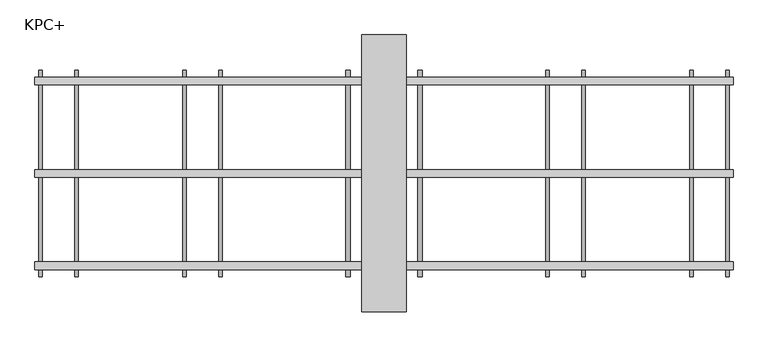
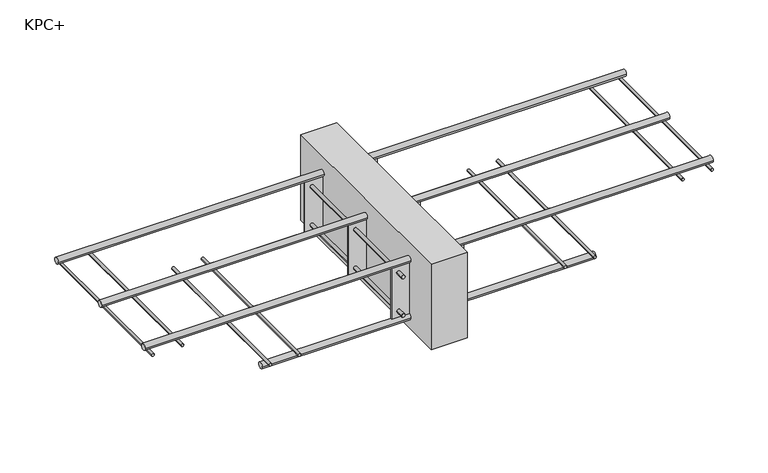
"""IFC4 building model written with IfcOpenShell, lengths in millimetres: proxy geometry, ACINOXplus_Typenreihe_K : KPC+."""

from ifc_helpers import new_model, si_unit, point, frame, frame_2d, origin, place, context, project, spatial, polyline, circle_curve, trimmed, segment, composite_curve, outline, extrude, source, transform, mapped, element, save


def kpc_e40cfa22(model_context):
    return source(origin(), model_context, "Body", "SweptSolid", [
        extrude(outline(polyline([(40.0, 250.0), (40.0, -250.0), (-40.0, -250.0), (-40.0, 250.0), (40.0, 250.0)])), frame((0.0, 0.0, -200.0), z_axis=(0.0, 0.0, 1.0), x_axis=(1.0, 0.0, 0.0)), (0.0, 0.0, 1.0), 200.0),
        extrude(outline(polyline([(80.0, 1.5), (80.0, -1.5), (-80.0, -1.5), (-80.0, 1.5), (80.0, 1.5)])), frame((0.0, 0.0, -165.0), z_axis=(0.0, 0.0, 1.0), x_axis=(1.0, 0.0, 0.0)), (0.0, 0.0, 1.0), 120.0),
        extrude(outline(polyline([(80.0, -165.1666667), (80.0, -168.1666667), (-80.0, -168.1666667), (-80.0, -165.1666667), (80.0, -165.1666667)])), frame((0.0, 0.0, -165.0), z_axis=(0.0, 0.0, 1.0), x_axis=(1.0, 0.0, 0.0)), (0.0, 0.0, 1.0), 120.0),
        extrude(outline(polyline([(80.0, 168.1666667), (80.0, 165.1666667), (-80.0, 165.1666667), (-80.0, 168.1666667), (80.0, 168.1666667)])), frame((0.0, 0.0, -165.0), z_axis=(0.0, 0.0, 1.0), x_axis=(1.0, 0.0, 0.0)), (0.0, 0.0, 1.0), 120.0),
        extrude(outline(composite_curve([segment(trimmed(circle_curve(frame_2d((-150.0, -65.0)), 4.0), [point((-150.0, -69.0))], [point((-150.0, -61.0))], False, "CARTESIAN"), True, "CONTINUOUS"), segment(trimmed(circle_curve(frame_2d((-150.0, -65.0)), 4.0), [point((-150.0, -61.0))], [point((-150.0, -69.0))], False, "CARTESIAN"), True, "CONTINUOUS")], self_intersect=False)), frame((0.0, 168.1666667, 0.0), z_axis=(0.0, 1.0, 0.0), x_axis=(0.0, 0.0, 1.0)), (0.0, 0.0, 1.0), 18.5),
        extrude(outline(composite_curve([segment(trimmed(circle_curve(frame_2d((-150.0, -65.0)), 4.0), [point((-150.0, -61.0))], [point((-150.0, -69.0))], False, "CARTESIAN"), True, "CONTINUOUS"), segment(trimmed(circle_curve(frame_2d((-150.0, -65.0)), 4.0), [point((-150.0, -69.0))], [point((-150.0, -61.0))], False, "CARTESIAN"), True, "CONTINUOUS")], self_intersect=False)), frame((0.0, -186.6666667, 0.0), z_axis=(0.0, 1.0, 0.0), x_axis=(0.0, 0.0, 1.0)), (0.0, 0.0, 1.0), 18.5),
        extrude(outline(composite_curve([segment(trimmed(circle_curve(frame_2d((-150.0, -65.0)), 4.0), [point((-150.0, -69.0))], [point((-150.0, -61.0))], False, "CARTESIAN"), True, "CONTINUOUS"), segment(trimmed(circle_curve(frame_2d((-150.0, -65.0)), 4.0), [point((-150.0, -61.0))], [point((-150.0, -69.0))], False, "CARTESIAN"), True, "CONTINUOUS")], self_intersect=False)), frame((0.0, -165.1666667, 0.0), z_axis=(0.0, 1.0, 0.0), x_axis=(0.0, 0.0, 1.0)), (0.0, 0.0, 1.0), 163.6666667),
        extrude(outline(composite_curve([segment(trimmed(circle_curve(frame_2d((-150.0, -65.0)), 4.0), [point((-150.0, -69.0))], [point((-150.0, -61.0))], False, "CARTESIAN"), True, "CONTINUOUS"), segment(trimmed(circle_curve(frame_2d((-150.0, -65.0)), 4.0), [point((-150.0, -61.0))], [point((-150.0, -69.0))], False, "CARTESIAN"), True, "CONTINUOUS")], self_intersect=False)), frame((0.0, 1.5, 0.0), z_axis=(0.0, 1.0, 0.0), x_axis=(0.0, 0.0, 1.0)), (0.0, 0.0, 1.0), 163.6666667),
        extrude(outline(composite_curve([segment(trimmed(circle_curve(frame_2d((-150.0, 65.0)), 4.0), [point((-150.0, 61.0))], [point((-150.0, 69.0))], False, "CARTESIAN"), True, "CONTINUOUS"), segment(trimmed(circle_curve(frame_2d((-150.0, 65.0)), 4.0), [point((-150.0, 69.0))], [point((-150.0, 61.0))], False, "CARTESIAN"), True, "CONTINUOUS")], self_intersect=False)), frame((0.0, 168.1666667, 0.0), z_axis=(0.0, 1.0, 0.0), x_axis=(0.0, 0.0, 1.0)), (0.0, 0.0, 1.0), 18.5),
        extrude(outline(composite_curve([segment(trimmed(circle_curve(frame_2d((-150.0, 65.0)), 4.0), [point((-150.0, 69.0))], [point((-150.0, 61.0))], False, "CARTESIAN"), True, "CONTINUOUS"), segment(trimmed(circle_curve(frame_2d((-150.0, 65.0)), 4.0), [point((-150.0, 61.0))], [point((-150.0, 69.0))], False, "CARTESIAN"), True, "CONTINUOUS")], self_intersect=False)), frame((0.0, -186.6666667, 0.0), z_axis=(0.0, 1.0, 0.0), x_axis=(0.0, 0.0, 1.0)), (0.0, 0.0, 1.0), 18.5),
        extrude(outline(composite_curve([segment(trimmed(circle_curve(frame_2d((-150.0, 65.0)), 4.0), [point((-150.0, 61.0))], [point((-150.0, 69.0))], False, "CARTESIAN"), True, "CONTINUOUS"), segment(trimmed(circle_curve(frame_2d((-150.0, 65.0)), 4.0), [point((-150.0, 69.0))], [point((-150.0, 61.0))], False, "CARTESIAN"), True, "CONTINUOUS")], self_intersect=False)), frame((0.0, -165.1666667, 0.0), z_axis=(0.0, 1.0, 0.0), x_axis=(0.0, 0.0, 1.0)), (0.0, 0.0, 1.0), 163.6666667),
        extrude(outline(composite_curve([segment(trimmed(circle_curve(frame_2d((-150.0, 65.0)), 4.0), [point((-150.0, 61.0))], [point((-150.0, 69.0))], False, "CARTESIAN"), True, "CONTINUOUS"), segment(trimmed(circle_curve(frame_2d((-150.0, 65.0)), 4.0), [point((-150.0, 69.0))], [point((-150.0, 61.0))], False, "CARTESIAN"), True, "CONTINUOUS")], self_intersect=False)), frame((0.0, 1.5, 0.0), z_axis=(0.0, 1.0, 0.0), x_axis=(0.0, 0.0, 1.0)), (0.0, 0.0, 1.0), 163.6666667),
        extrude(outline(composite_curve([segment(trimmed(circle_curve(frame_2d((-60.0, -65.0)), 4.0), [point((-60.0, -69.0))], [point((-60.0, -61.0))], False, "CARTESIAN"), True, "CONTINUOUS"), segment(trimmed(circle_curve(frame_2d((-60.0, -65.0)), 4.0), [point((-60.0, -61.0))], [point((-60.0, -69.0))], False, "CARTESIAN"), True, "CONTINUOUS")], self_intersect=False)), frame((0.0, 168.1666667, 0.0), z_axis=(0.0, 1.0, 0.0), x_axis=(0.0, 0.0, 1.0)), (0.0, 0.0, 1.0), 18.5),
        extrude(outline(composite_curve([segment(trimmed(circle_curve(frame_2d((-60.0, -65.0)), 4.0), [point((-60.0, -61.0))], [point((-60.0, -69.0))], False, "CARTESIAN"), True, "CONTINUOUS"), segment(trimmed(circle_curve(frame_2d((-60.0, -65.0)), 4.0), [point((-60.0, -69.0))], [point((-60.0, -61.0))], False, "CARTESIAN"), True, "CONTINUOUS")], self_intersect=False)), frame((0.0, -186.6666667, 0.0), z_axis=(0.0, 1.0, 0.0), x_axis=(0.0, 0.0, 1.0)), (0.0, 0.0, 1.0), 18.5),
        extrude(outline(composite_curve([segment(trimmed(circle_curve(frame_2d((-60.0, -65.0)), 4.0), [point((-60.0, -69.0))], [point((-60.0, -61.0))], False, "CARTESIAN"), True, "CONTINUOUS"), segment(trimmed(circle_curve(frame_2d((-60.0, -65.0)), 4.0), [point((-60.0, -61.0))], [point((-60.0, -69.0))], False, "CARTESIAN"), True, "CONTINUOUS")], self_intersect=False)), frame((0.0, -165.1666667, 0.0), z_axis=(0.0, 1.0, 0.0), x_axis=(0.0, 0.0, 1.0)), (0.0, 0.0, 1.0), 163.6666667),
        extrude(outline(composite_curve([segment(trimmed(circle_curve(frame_2d((-60.0, -65.0)), 4.0), [point((-60.0, -69.0))], [point((-60.0, -61.0))], False, "CARTESIAN"), True, "CONTINUOUS"), segment(trimmed(circle_curve(frame_2d((-60.0, -65.0)), 4.0), [point((-60.0, -61.0))], [point((-60.0, -69.0))], False, "CARTESIAN"), True, "CONTINUOUS")], self_intersect=False)), frame((0.0, 1.5, 0.0), z_axis=(0.0, 1.0, 0.0), x_axis=(0.0, 0.0, 1.0)), (0.0, 0.0, 1.0), 163.6666667),
        extrude(outline(composite_curve([segment(trimmed(circle_curve(frame_2d((-60.0, 65.0)), 4.0), [point((-60.0, 61.0))], [point((-60.0, 69.0))], False, "CARTESIAN"), True, "CONTINUOUS"), segment(trimmed(circle_curve(frame_2d((-60.0, 65.0)), 4.0), [point((-60.0, 69.0))], [point((-60.0, 61.0))], False, "CARTESIAN"), True, "CONTINUOUS")], self_intersect=False)), frame((0.0, 168.1666667, 0.0), z_axis=(0.0, 1.0, 0.0), x_axis=(0.0, 0.0, 1.0)), (0.0, 0.0, 1.0), 18.5),
        extrude(outline(composite_curve([segment(trimmed(circle_curve(frame_2d((-60.0, 65.0)), 4.0), [point((-60.0, 69.0))], [point((-60.0, 61.0))], False, "CARTESIAN"), True, "CONTINUOUS"), segment(trimmed(circle_curve(frame_2d((-60.0, 65.0)), 4.0), [point((-60.0, 61.0))], [point((-60.0, 69.0))], False, "CARTESIAN"), True, "CONTINUOUS")], self_intersect=False)), frame((0.0, -186.6666667, 0.0), z_axis=(0.0, 1.0, 0.0), x_axis=(0.0, 0.0, 1.0)), (0.0, 0.0, 1.0), 18.5),
        extrude(outline(composite_curve([segment(trimmed(circle_curve(frame_2d((-60.0, 65.0)), 4.0), [point((-60.0, 61.0))], [point((-60.0, 69.0))], False, "CARTESIAN"), True, "CONTINUOUS"), segment(trimmed(circle_curve(frame_2d((-60.0, 65.0)), 4.0), [point((-60.0, 69.0))], [point((-60.0, 61.0))], False, "CARTESIAN"), True, "CONTINUOUS")], self_intersect=False)), frame((0.0, -165.1666667, 0.0), z_axis=(0.0, 1.0, 0.0), x_axis=(0.0, 0.0, 1.0)), (0.0, 0.0, 1.0), 163.6666667),
        extrude(outline(composite_curve([segment(trimmed(circle_curve(frame_2d((-60.0, 65.0)), 4.0), [point((-60.0, 61.0))], [point((-60.0, 69.0))], False, "CARTESIAN"), True, "CONTINUOUS"), segment(trimmed(circle_curve(frame_2d((-60.0, 65.0)), 4.0), [point((-60.0, 69.0))], [point((-60.0, 61.0))], False, "CARTESIAN"), True, "CONTINUOUS")], self_intersect=False)), frame((0.0, 1.5, 0.0), z_axis=(0.0, 1.0, 0.0), x_axis=(0.0, 0.0, 1.0)), (0.0, 0.0, 1.0), 163.6666667),
        extrude(outline(composite_curve([segment(trimmed(circle_curve(frame_2d((0.0, -172.0)), 7.0), [point((-7.0, -172.0))], [point((7.0, -172.0))], False, "CARTESIAN"), True, "CONTINUOUS"), segment(trimmed(circle_curve(frame_2d((0.0, -172.0)), 7.0), [point((7.0, -172.0))], [point((-7.0, -172.0))], False, "CARTESIAN"), True, "CONTINUOUS")], self_intersect=False)), frame((-370.0, 0.0, 0.0), z_axis=(1.0, 0.0, 0.0), x_axis=(0.0, 1.0, 0.0)), (0.0, 0.0, 1.0), 740.0),
        extrude(outline(composite_curve([segment(trimmed(circle_curve(frame_2d((166.6666667, -172.0)), 7.0), [point((159.6666667, -172.0))], [point((173.6666667, -172.0))], False, "CARTESIAN"), True, "CONTINUOUS"), segment(trimmed(circle_curve(frame_2d((166.6666667, -172.0)), 7.0), [point((173.6666667, -172.0))], [point((159.6666667, -172.0))], False, "CARTESIAN"), True, "CONTINUOUS")], self_intersect=False)), frame((-370.0, 0.0, 0.0), z_axis=(1.0, 0.0, 0.0), x_axis=(0.0, 1.0, 0.0)), (0.0, 0.0, 1.0), 740.0),
        extrude(outline(composite_curve([segment(trimmed(circle_curve(frame_2d((-166.6666667, -172.0)), 7.0), [point((-173.6666667, -172.0))], [point((-159.6666667, -172.0))], False, "CARTESIAN"), True, "CONTINUOUS"), segment(trimmed(circle_curve(frame_2d((-166.6666667, -172.0)), 7.0), [point((-159.6666667, -172.0))], [point((-173.6666667, -172.0))], False, "CARTESIAN"), True, "CONTINUOUS")], self_intersect=False)), frame((-370.0, 0.0, 0.0), z_axis=(1.0, 0.0, 0.0), x_axis=(0.0, 1.0, 0.0)), (0.0, 0.0, 1.0), 740.0),
        extrude(outline(composite_curve([segment(trimmed(circle_curve(frame_2d((0.0, -38.0)), 7.0), [point((-7.0, -38.0))], [point((7.0, -38.0))], False, "CARTESIAN"), True, "CONTINUOUS"), segment(trimmed(circle_curve(frame_2d((0.0, -38.0)), 7.0), [point((7.0, -38.0))], [point((-7.0, -38.0))], False, "CARTESIAN"), True, "CONTINUOUS")], self_intersect=False)), frame((-630.0, 0.0, 0.0), z_axis=(1.0, 0.0, 0.0), x_axis=(0.0, 1.0, 0.0)), (0.0, 0.0, 1.0), 1260.0),
        extrude(outline(composite_curve([segment(trimmed(circle_curve(frame_2d((166.6666667, -38.0)), 7.0), [point((159.6666667, -38.0))], [point((173.6666667, -38.0))], False, "CARTESIAN"), True, "CONTINUOUS"), segment(trimmed(circle_curve(frame_2d((166.6666667, -38.0)), 7.0), [point((173.6666667, -38.0))], [point((159.6666667, -38.0))], False, "CARTESIAN"), True, "CONTINUOUS")], self_intersect=False)), frame((-630.0, 0.0, 0.0), z_axis=(1.0, 0.0, 0.0), x_axis=(0.0, 1.0, 0.0)), (0.0, 0.0, 1.0), 1260.0),
        extrude(outline(composite_curve([segment(trimmed(circle_curve(frame_2d((-166.6666667, -38.0)), 7.0), [point((-173.6666667, -38.0))], [point((-159.6666667, -38.0))], False, "CARTESIAN"), True, "CONTINUOUS"), segment(trimmed(circle_curve(frame_2d((-166.6666667, -38.0)), 7.0), [point((-159.6666667, -38.0))], [point((-173.6666667, -38.0))], False, "CARTESIAN"), True, "CONTINUOUS")], self_intersect=False)), frame((-630.0, 0.0, 0.0), z_axis=(1.0, 0.0, 0.0), x_axis=(0.0, 1.0, 0.0)), (0.0, 0.0, 1.0), 1260.0),
        extrude(outline(composite_curve([segment(trimmed(circle_curve(frame_2d((-162.0, -360.0)), 3.0), [point((-162.0, -357.0))], [point((-162.0, -363.0))], False, "CARTESIAN"), True, "CONTINUOUS"), segment(trimmed(circle_curve(frame_2d((-162.0, -360.0)), 3.0), [point((-162.0, -363.0))], [point((-162.0, -357.0))], False, "CARTESIAN"), True, "CONTINUOUS")], self_intersect=False)), frame((0.0, -186.6666667, 0.0), z_axis=(0.0, 1.0, 0.0), x_axis=(0.0, 0.0, 1.0)), (0.0, 0.0, 1.0), 373.3333333),
        extrude(outline(composite_curve([segment(trimmed(circle_curve(frame_2d((-162.0, -295.0)), 3.0), [point((-162.0, -292.0))], [point((-162.0, -298.0))], False, "CARTESIAN"), True, "CONTINUOUS"), segment(trimmed(circle_curve(frame_2d((-162.0, -295.0)), 3.0), [point((-162.0, -298.0))], [point((-162.0, -292.0))], False, "CARTESIAN"), True, "CONTINUOUS")], self_intersect=False)), frame((0.0, -186.6666667, 0.0), z_axis=(0.0, 1.0, 0.0), x_axis=(0.0, 0.0, 1.0)), (0.0, 0.0, 1.0), 373.3333333),
        extrude(outline(composite_curve([segment(trimmed(circle_curve(frame_2d((-162.0, 295.0)), 3.0), [point((-162.0, 298.0))], [point((-162.0, 292.0))], False, "CARTESIAN"), True, "CONTINUOUS"), segment(trimmed(circle_curve(frame_2d((-162.0, 295.0)), 3.0), [point((-162.0, 292.0))], [point((-162.0, 298.0))], False, "CARTESIAN"), True, "CONTINUOUS")], self_intersect=False)), frame((0.0, -186.6666667, 0.0), z_axis=(0.0, 1.0, 0.0), x_axis=(0.0, 0.0, 1.0)), (0.0, 0.0, 1.0), 373.3333333),
        extrude(outline(composite_curve([segment(trimmed(circle_curve(frame_2d((-162.0, 360.0)), 3.0), [point((-162.0, 363.0))], [point((-162.0, 357.0))], False, "CARTESIAN"), True, "CONTINUOUS"), segment(trimmed(circle_curve(frame_2d((-162.0, 360.0)), 3.0), [point((-162.0, 357.0))], [point((-162.0, 363.0))], False, "CARTESIAN"), True, "CONTINUOUS")], self_intersect=False)), frame((0.0, -186.6666667, 0.0), z_axis=(0.0, 1.0, 0.0), x_axis=(0.0, 0.0, 1.0)), (0.0, 0.0, 1.0), 373.3333333),
        extrude(outline(composite_curve([segment(trimmed(circle_curve(frame_2d((-48.0, 555.0)), 3.0), [point((-48.0, 558.0))], [point((-48.0, 552.0))], False, "CARTESIAN"), True, "CONTINUOUS"), segment(trimmed(circle_curve(frame_2d((-48.0, 555.0)), 3.0), [point((-48.0, 552.0))], [point((-48.0, 558.0))], False, "CARTESIAN"), True, "CONTINUOUS")], self_intersect=False)), frame((0.0, -186.6666667, 0.0), z_axis=(0.0, 1.0, 0.0), x_axis=(0.0, 0.0, 1.0)), (0.0, 0.0, 1.0), 373.3333333),
        extrude(outline(composite_curve([segment(trimmed(circle_curve(frame_2d((-48.0, 620.0)), 3.0), [point((-48.0, 623.0))], [point((-48.0, 617.0))], False, "CARTESIAN"), True, "CONTINUOUS"), segment(trimmed(circle_curve(frame_2d((-48.0, 620.0)), 3.0), [point((-48.0, 617.0))], [point((-48.0, 623.0))], False, "CARTESIAN"), True, "CONTINUOUS")], self_intersect=False)), frame((0.0, -186.6666667, 0.0), z_axis=(0.0, 1.0, 0.0), x_axis=(0.0, 0.0, 1.0)), (0.0, 0.0, 1.0), 373.3333333),
        extrude(outline(composite_curve([segment(trimmed(circle_curve(frame_2d((-48.0, -620.0)), 3.0), [point((-48.0, -617.0))], [point((-48.0, -623.0))], False, "CARTESIAN"), True, "CONTINUOUS"), segment(trimmed(circle_curve(frame_2d((-48.0, -620.0)), 3.0), [point((-48.0, -623.0))], [point((-48.0, -617.0))], False, "CARTESIAN"), True, "CONTINUOUS")], self_intersect=False)), frame((0.0, -186.6666667, 0.0), z_axis=(0.0, 1.0, 0.0), x_axis=(0.0, 0.0, 1.0)), (0.0, 0.0, 1.0), 373.3333333),
        extrude(outline(composite_curve([segment(trimmed(circle_curve(frame_2d((-48.0, -555.0)), 3.0), [point((-48.0, -552.0))], [point((-48.0, -558.0))], False, "CARTESIAN"), True, "CONTINUOUS"), segment(trimmed(circle_curve(frame_2d((-48.0, -555.0)), 3.0), [point((-48.0, -558.0))], [point((-48.0, -552.0))], False, "CARTESIAN"), True, "CONTINUOUS")], self_intersect=False)), frame((0.0, -186.6666667, 0.0), z_axis=(0.0, 1.0, 0.0), x_axis=(0.0, 0.0, 1.0)), (0.0, 0.0, 1.0), 373.3333333),
    ])


if __name__ == "__main__":
    model = new_model("IFC4")
    model_context = context("Model", 3, world=origin())
    ifc_project = project(units=[si_unit("LENGTHUNIT", "METRE", prefix="MILLI")], contexts=[model_context])
    site = spatial("IfcSite", under=ifc_project)
    building = spatial("IfcBuilding", under=site)
    placement = place(None, origin())
    kpc_shape = kpc_e40cfa22(model_context)
    element("IfcBuildingElementProxy", 1, Name="ACINOXplus_Typenreihe_K : KPC+", ObjectType="ACINOXplus_Typenreihe_K : KPC+", at=placement, inside=building, context=model_context, shape_type="MappedRepresentation", body=[
        mapped(kpc_shape, transform((0.0, 0.0, 0.0), x_axis=(1.0, 0.0, 0.0), y_axis=(0.0, 1.0, 0.0), z_axis=(0.0, 0.0, 1.0))),
    ])
    save(model, "model.ifc")
